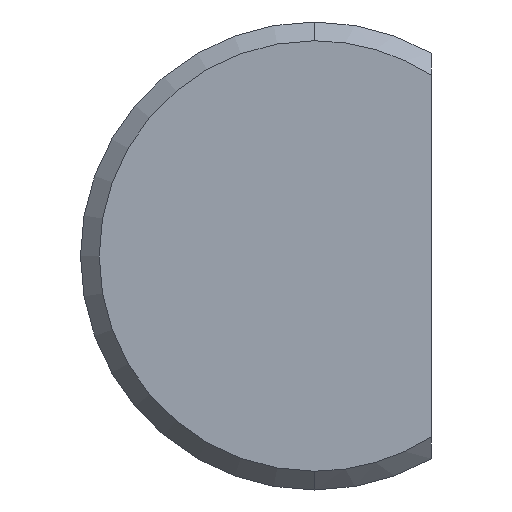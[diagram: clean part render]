
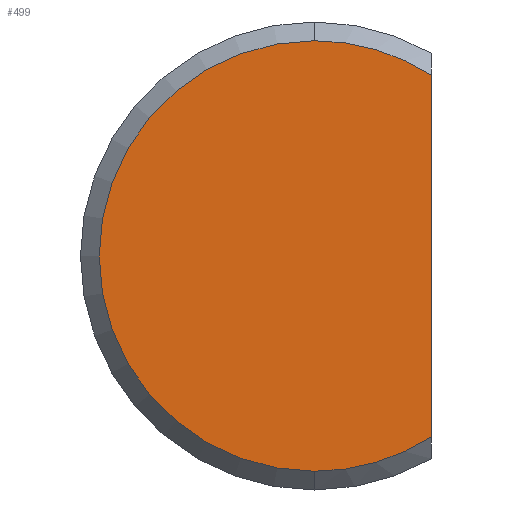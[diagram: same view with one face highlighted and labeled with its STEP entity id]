
A CAD part, front view. The second image highlights one B-rep face of the part: STEP entity #499.
In plain terms, the highlighted planar face has unit normal (0, -1, 0).
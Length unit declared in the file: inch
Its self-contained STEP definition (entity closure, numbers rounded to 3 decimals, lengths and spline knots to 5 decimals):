
#1 = CARTESIAN_POINT ( 'NONE',  ( 0., 0., 0. ) ) ;
#23 = AXIS2_PLACEMENT_3D ( 'NONE', #215, #548, #56 ) ;
#25 = LINE ( 'NONE', #567, #703 ) ;
#56 = DIRECTION ( 'NONE',  ( 0., 0., -1. ) ) ;
#100 = DIRECTION ( 'NONE',  ( 0., 0., -1. ) ) ;
#162 = EDGE_CURVE ( 'NONE', #429, #475, #570, .T. ) ;
#196 = AXIS2_PLACEMENT_3D ( 'NONE', #396, #339, #559 ) ;
#200 = CARTESIAN_POINT ( 'NONE',  ( 0., 0., 0. ) ) ;
#215 = CARTESIAN_POINT ( 'NONE',  ( 0., 0., 0. ) ) ;
#268 = DIRECTION ( 'NONE',  ( 0., -1., 0. ) ) ;
#285 = EDGE_CURVE ( 'NONE', #365, #313, #25, .T. ) ;
#313 = VERTEX_POINT ( 'NONE', #456 ) ;
#320 = EDGE_CURVE ( 'NONE', #313, #429, #390, .T. ) ;
#339 = DIRECTION ( 'NONE',  ( 0., -1., 0. ) ) ;
#344 = CIRCLE ( 'NONE', #607, 0.115 ) ;
#354 = ORIENTED_EDGE ( 'NONE', *, *, #162, .T. ) ;
#365 = VERTEX_POINT ( 'NONE', #616 ) ;
#369 = ORIENTED_EDGE ( 'NONE', *, *, #413, .T. ) ;
#370 = AXIS2_PLACEMENT_3D ( 'NONE', #1, #268, #493 ) ;
#390 = CIRCLE ( 'NONE', #196, 0.115 ) ;
#396 = CARTESIAN_POINT ( 'NONE',  ( 0., 0., 0. ) ) ;
#413 = EDGE_CURVE ( 'NONE', #475, #365, #344, .T. ) ;
#418 = CARTESIAN_POINT ( 'NONE',  ( 0., 0., -0.115 ) ) ;
#429 = VERTEX_POINT ( 'NONE', #527 ) ;
#434 = ORIENTED_EDGE ( 'NONE', *, *, #320, .T. ) ;
#456 = CARTESIAN_POINT ( 'NONE',  ( 0.0625, 0., 0.09653 ) ) ;
#474 = EDGE_LOOP ( 'NONE', ( #434, #354, #369, #593 ) ) ;
#475 = VERTEX_POINT ( 'NONE', #418 ) ;
#480 = DIRECTION ( 'NONE',  ( 0., -1., 0. ) ) ;
#493 = DIRECTION ( 'NONE',  ( 0., 0., -1. ) ) ;
#499 = ADVANCED_FACE ( 'NONE', ( #654 ), #546, .T. ) ;
#527 = CARTESIAN_POINT ( 'NONE',  ( 0., 0., 0.115 ) ) ;
#546 = PLANE ( 'NONE',  #370 ) ;
#548 = DIRECTION ( 'NONE',  ( 0., -1., 0. ) ) ;
#559 = DIRECTION ( 'NONE',  ( 0., 0., -1. ) ) ;
#567 = CARTESIAN_POINT ( 'NONE',  ( 0.0625, 0., 0.10825 ) ) ;
#570 = CIRCLE ( 'NONE', #23, 0.115 ) ;
#593 = ORIENTED_EDGE ( 'NONE', *, *, #285, .T. ) ;
#607 = AXIS2_PLACEMENT_3D ( 'NONE', #200, #480, #100 ) ;
#616 = CARTESIAN_POINT ( 'NONE',  ( 0.0625, 0., -0.09653 ) ) ;
#629 = DIRECTION ( 'NONE',  ( 0., 0., 1. ) ) ;
#654 = FACE_OUTER_BOUND ( 'NONE', #474, .T. ) ;
#703 = VECTOR ( 'NONE', #629, 39.37008 ) ;
